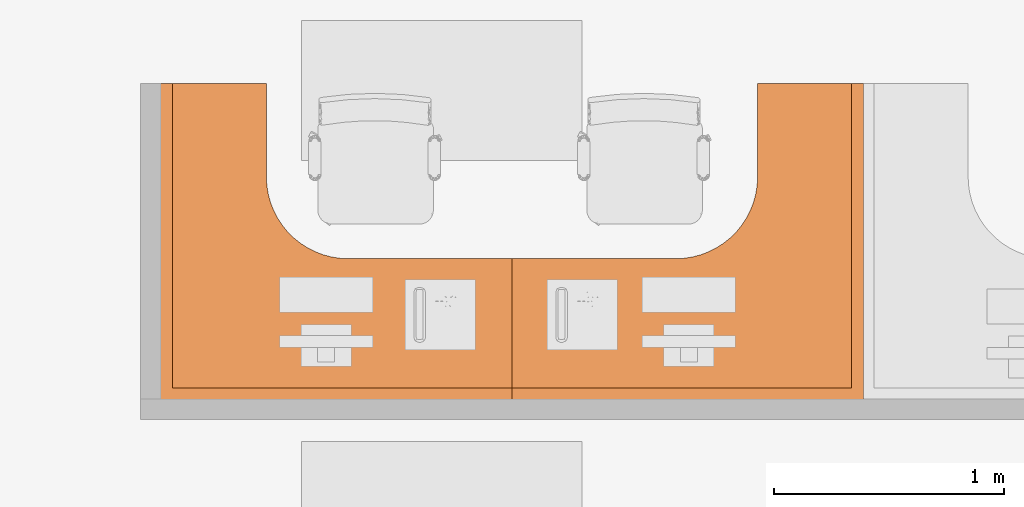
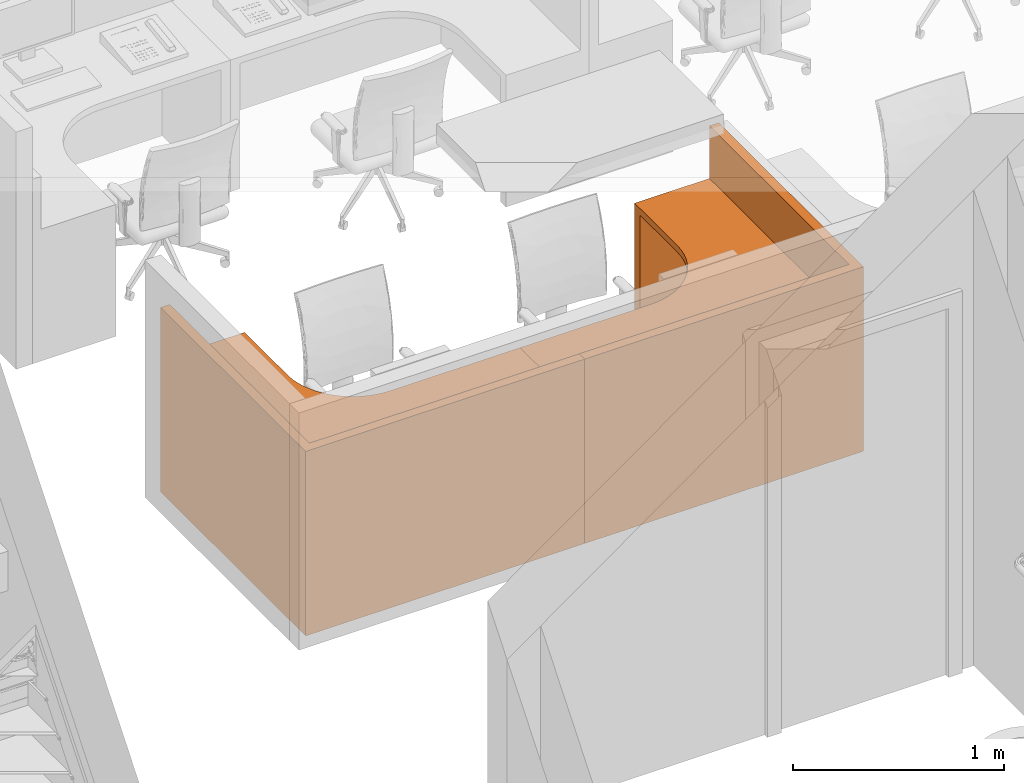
# One storey, part 14 of 142: 2 proxies.
"""IFC2X3 building model written with IfcOpenShell, lengths in feet."""

from ifc_helpers import new_model, entity, si_unit, converted_unit, derived_unit, direction, frame, frame_2d, origin, origin_2d_with_axis, place, context, subcontext, project, spatial, polyline, circle_curve, parameter, trimmed, segment, composite_curve, rectangle, outline, extrude, source, transform, mapped, type_object, type_shapes, element, save


model = new_model("IFC2X3")

# Units and contexts
model_context = context("Model", 3, precision=0.0001, world=origin(), true_north=direction((6.12303176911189e-17, 1.0)))
body_context = subcontext(model_context, "Body", "Model", "MODEL_VIEW")
ifc_project = project(units=[converted_unit("LENGTHUNIT", "FOOT", entity("IfcRatioMeasure", 0.3048), si_unit("LENGTHUNIT", "METRE"), dimensions=[1, 0, 0, 0, 0, 0, 0]), converted_unit("AREAUNIT", "SQUARE FOOT", entity("IfcRatioMeasure", 0.09290304), si_unit("AREAUNIT", "SQUARE_METRE"), dimensions=[2, 0, 0, 0, 0, 0, 0]), converted_unit("VOLUMEUNIT", "CUBIC FOOT", entity("IfcRatioMeasure", 0.028316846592), si_unit("VOLUMEUNIT", "CUBIC_METRE"), dimensions=[3, 0, 0, 0, 0, 0, 0]), converted_unit("PLANEANGLEUNIT", "DEGREE", entity("IfcRatioMeasure", 0.0174532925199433), si_unit("PLANEANGLEUNIT", "RADIAN"), dimensions=[0, 0, 0, 0, 0, 0, 0]), si_unit("MASSUNIT", "GRAM", prefix="KILO"), derived_unit("MASSDENSITYUNIT", [(si_unit("MASSUNIT", "GRAM", prefix="KILO"), 1), (si_unit("LENGTHUNIT", "METRE"), -3)]), si_unit("TIMEUNIT", "SECOND"), si_unit("FREQUENCYUNIT", "HERTZ"), si_unit("THERMODYNAMICTEMPERATUREUNIT", "DEGREE_CELSIUS"), derived_unit("THERMALTRANSMITTANCEUNIT", [(si_unit("MASSUNIT", "GRAM", prefix="KILO"), 1), (si_unit("THERMODYNAMICTEMPERATUREUNIT", "KELVIN"), -1), (si_unit("TIMEUNIT", "SECOND"), -3)]), derived_unit("VOLUMETRICFLOWRATEUNIT", [(si_unit("LENGTHUNIT", "METRE"), 3), (si_unit("TIMEUNIT", "SECOND"), -1)]), si_unit("ELECTRICCURRENTUNIT", "AMPERE"), si_unit("ELECTRICVOLTAGEUNIT", "VOLT"), si_unit("POWERUNIT", "WATT"), si_unit("FORCEUNIT", "NEWTON"), si_unit("ILLUMINANCEUNIT", "LUX"), si_unit("LUMINOUSFLUXUNIT", "LUMEN"), si_unit("LUMINOUSINTENSITYUNIT", "CANDELA"), derived_unit("USERDEFINED", [(si_unit("MASSUNIT", "GRAM", prefix="KILO"), -1), (si_unit("LENGTHUNIT", "METRE"), -2), (si_unit("TIMEUNIT", "SECOND"), 3), (si_unit("LUMINOUSFLUXUNIT", "LUMEN"), 1)]), derived_unit("LINEARVELOCITYUNIT", [(si_unit("LENGTHUNIT", "METRE"), 1), (si_unit("TIMEUNIT", "SECOND"), -1)]), si_unit("PRESSUREUNIT", "PASCAL"), derived_unit("USERDEFINED", [(si_unit("LENGTHUNIT", "METRE"), -2), (si_unit("MASSUNIT", "GRAM", prefix="KILO"), 1), (si_unit("TIMEUNIT", "SECOND"), -2)])], contexts=[model_context])

# Site, building, storey, space
site_placement = place(None, origin())
site = spatial("IfcSite", under=ifc_project, at=site_placement, Name="Default", CompositionType="ELEMENT")
building_placement = place(site_placement, origin())
building = spatial("IfcBuilding", under=site, at=building_placement, Name="OUTPATIENT / PACT CLINIC (Ch. 265)", CompositionType="ELEMENT")
storey_placement = place(building_placement, origin())
storey = spatial("IfcBuildingStorey", under=building, at=storey_placement, Name="LEVEL 1", CompositionType="ELEMENT", Elevation=0.0)
space_placement = place(storey_placement, origin())
space = spatial("IfcSpace", under=storey, at=space_placement, Name="WRTM1", CompositionType="ELEMENT", InteriorOrExteriorSpace="INTERNAL")

# Proxies
building_element_proxy_type_1 = type_object("IfcBuildingElementProxyType", Name="U0075 - Workstation, L-Shaped, Freestanding, 60x54", PredefinedType="NOTDEFINED")
shared_shape_1 = source(origin(), body_context, "Body", "SweptSolid", [
    extrude(rectangle(XDim=0.166666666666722, YDim=2.0, at=frame_2d((-1.3836154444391e-14, 0.0), x_axis=(1.0, 0.0))), frame((0.0833333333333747, -1.0, 0.0), z_axis=(0.0, 0.0, 1.0), x_axis=(-1.0, 0.0, 0.0)), (0.0, 0.0, 1.0), 2.375),
    extrude(rectangle(XDim=0.166666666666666, YDim=1.5, at=frame_2d((0.0, -4.44089209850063e-16), x_axis=(1.0, 0.0))), frame((4.25000000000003, -4.41666666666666, 0.0), z_axis=(0.0, 0.0, 1.0), x_axis=(0.0, 1.0, 0.0)), (0.0, 0.0, 1.0), 2.37499999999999),
    extrude(outline(composite_curve([segment(polyline([(-2.23809523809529, -2.3095238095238), (2.7619047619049, -2.3095238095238)]), True, "CONTINUOUS"), segment(polyline([(2.7619047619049, -2.3095238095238), (2.7619047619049, -0.309523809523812)]), True, "CONTINUOUS"), segment(polyline([(2.7619047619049, -0.309523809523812), (0.428571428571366, -0.309523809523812)]), True, "CONTINUOUS"), segment(trimmed(circle_curve(frame_2d((0.428571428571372, 0.857142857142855), x_axis=(1.0, 0.0)), 1.16666666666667), [parameter(180.0)], [parameter(270.0)], True, "PARAMETER"), False, "CONTINUOUS"), segment(polyline([(-0.738095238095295, 0.857142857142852), (-0.738095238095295, 2.19047619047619)]), True, "CONTINUOUS"), segment(polyline([(-0.738095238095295, 2.19047619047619), (-2.23809523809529, 2.19047619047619)]), True, "CONTINUOUS"), segment(polyline([(-2.23809523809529, 2.19047619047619), (-2.23809523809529, -2.3095238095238)]), True, "CONTINUOUS")], self_intersect=False)), frame((2.76190476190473, -2.30952380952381, 2.37499999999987), z_axis=(0.0, 0.0, 1.0), x_axis=(-1.0, 0.0, 0.0)), (0.0, 0.0, 1.0), 0.125),
    extrude(outline(polyline([(-2.16666666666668, -2.16666666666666), (2.83333333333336, -2.16666666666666), (2.83333333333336, -0.16666666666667), (-0.666666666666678, -0.16666666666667), (-0.666666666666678, 2.33333333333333), (-2.16666666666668, 2.33333333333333), (-2.16666666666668, -2.16666666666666)])), frame((2.83333333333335, -2.16666666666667, 2.37499999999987), z_axis=(0.0, 0.0, 1.0), x_axis=(-1.0, 0.0, 0.0)), (0.0, 0.0, 1.0), 0.125),
    extrude(rectangle(XDim=5.00000000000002, YDim=0.166666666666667, at=origin_2d_with_axis()), frame((2.49999999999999, -0.075000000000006, 0.0), z_axis=(0.0, 0.0, 1.0), x_axis=(-1.0, 0.0, 0.0)), (0.0, 0.0, 1.0), 3.5),
    extrude(rectangle(XDim=4.50000000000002, YDim=0.166666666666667, at=frame_2d((0.0, 4.44089209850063e-16), x_axis=(1.0, 0.0))), frame((4.92500000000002, -2.25000000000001, 0.0), z_axis=(0.0, 0.0, 1.0), x_axis=(0.0, 1.0, 0.0)), (0.0, 0.0, 1.0), 3.5),
])
type_shapes(building_element_proxy_type_1, [shared_shape_1])
proxy_1_placement = place(space_placement, frame((414.359283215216, -935.628851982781, 0.0), z_axis=(0.0, 0.0, 1.0), x_axis=(-1.0, 0.0, 0.0)))
element("IfcBuildingElementProxy", 1, at=proxy_1_placement, inside=space, type_object=building_element_proxy_type_1, Name="U0075 - Workstation, L-Shaped, Freestanding, 60x54:U0075 - Workstation, L-Shaped, Freestanding, 60x54", ObjectType="U0075 - Workstation, L-Shaped, Freestanding, 60x54", context=body_context, shape_type="MappedRepresentation", body=[
    mapped(shared_shape_1, transform((0.0, 0.0, 0.0), scale=1.0)),
])
building_element_proxy_type_2 = type_object("IfcBuildingElementProxyType", Name="U0075 - Workstation, L-Shaped, Freestanding, 60x54", PredefinedType="NOTDEFINED")
shared_shape_2 = source(origin(), body_context, "Body", "SweptSolid", [
    extrude(rectangle(XDim=2.0, YDim=0.166666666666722, at=frame_2d((-1.11022302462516e-16, -1.3836154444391e-14), x_axis=(1.0, 0.0))), frame((0.0833333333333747, 1.0, 0.0), z_axis=(0.0, 0.0, 1.0), x_axis=(0.0, 1.0, 0.0)), (0.0, 0.0, 1.0), 2.375),
    extrude(rectangle(XDim=1.5, YDim=0.166666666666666, at=frame_2d((-4.44089209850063e-16, 0.0), x_axis=(1.0, 0.0))), frame((4.25000000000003, 4.41666666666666, 0.0), z_axis=(0.0, 0.0, 1.0), x_axis=(-1.0, 0.0, 0.0)), (0.0, 0.0, 1.0), 2.37499999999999),
    extrude(outline(composite_curve([segment(polyline([(-2.3095238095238, -2.23809523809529), (2.19047619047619, -2.23809523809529)]), True, "CONTINUOUS"), segment(polyline([(2.19047619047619, -2.23809523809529), (2.19047619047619, -0.738095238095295)]), True, "CONTINUOUS"), segment(polyline([(2.19047619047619, -0.738095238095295), (0.857142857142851, -0.738095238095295)]), True, "CONTINUOUS"), segment(trimmed(circle_curve(frame_2d((0.857142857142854, 0.428571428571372), x_axis=(0.0, 1.0)), 1.16666666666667), [parameter(90.0)], [parameter(180.0)], True, "PARAMETER"), False, "CONTINUOUS"), segment(polyline([(-0.309523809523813, 0.428571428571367), (-0.309523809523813, 2.7619047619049)]), True, "CONTINUOUS"), segment(polyline([(-0.309523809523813, 2.7619047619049), (-2.3095238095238, 2.7619047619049)]), True, "CONTINUOUS"), segment(polyline([(-2.3095238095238, 2.7619047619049), (-2.3095238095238, -2.23809523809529)]), True, "CONTINUOUS")], self_intersect=False)), frame((2.76190476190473, 2.30952380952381, 2.37499999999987), z_axis=(0.0, 0.0, 1.0), x_axis=(0.0, 1.0, 0.0)), (0.0, 0.0, 1.0), 0.125),
    extrude(outline(polyline([(-2.16666666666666, -2.16666666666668), (2.33333333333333, -2.16666666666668), (2.33333333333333, -0.666666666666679), (-0.16666666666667, -0.666666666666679), (-0.16666666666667, 2.83333333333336), (-2.16666666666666, 2.83333333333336), (-2.16666666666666, -2.16666666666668)])), frame((2.83333333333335, 2.16666666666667, 2.37499999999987), z_axis=(0.0, 0.0, 1.0), x_axis=(0.0, 1.0, 0.0)), (0.0, 0.0, 1.0), 0.125),
    extrude(rectangle(XDim=0.166666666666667, YDim=5.00000000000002, at=frame_2d((2.77555756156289e-17, -2.22044604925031e-16), x_axis=(1.0, 0.0))), frame((2.49999999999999, 0.0750000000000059, 0.0), z_axis=(0.0, 0.0, 1.0), x_axis=(0.0, 1.0, 0.0)), (0.0, 0.0, 1.0), 3.5),
    extrude(rectangle(XDim=0.166666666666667, YDim=4.50000000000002, at=frame_2d((4.44089209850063e-16, 2.22044604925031e-16), x_axis=(1.0, 0.0))), frame((4.92500000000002, 2.25000000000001, 0.0), z_axis=(0.0, 0.0, 1.0), x_axis=(-1.0, 0.0, 0.0)), (0.0, 0.0, 1.0), 3.5),
])
type_shapes(building_element_proxy_type_2, [shared_shape_2])
proxy_2_placement = place(space_placement, frame((414.359283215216, -935.628851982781, 0.0)))
element("IfcBuildingElementProxy", 2, at=proxy_2_placement, inside=space, type_object=building_element_proxy_type_2, Name="U0075 - Workstation, L-Shaped, Freestanding, 60x54:U0075 - Workstation, L-Shaped, Freestanding, 60x54", ObjectType="U0075 - Workstation, L-Shaped, Freestanding, 60x54", context=body_context, shape_type="MappedRepresentation", body=[
    mapped(shared_shape_2, transform((0.0, 0.0, 0.0), scale=1.0)),
])

save(model, "model.ifc")
